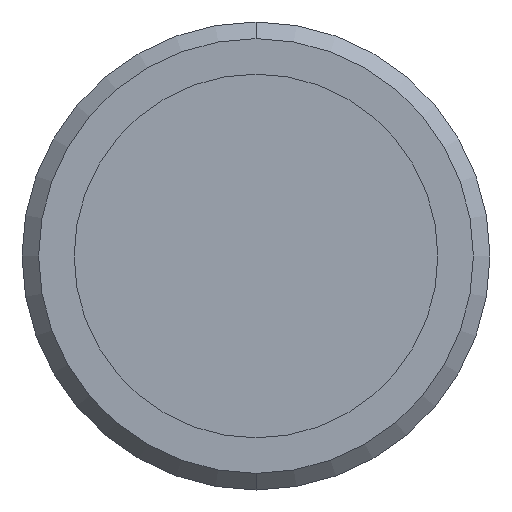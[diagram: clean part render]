
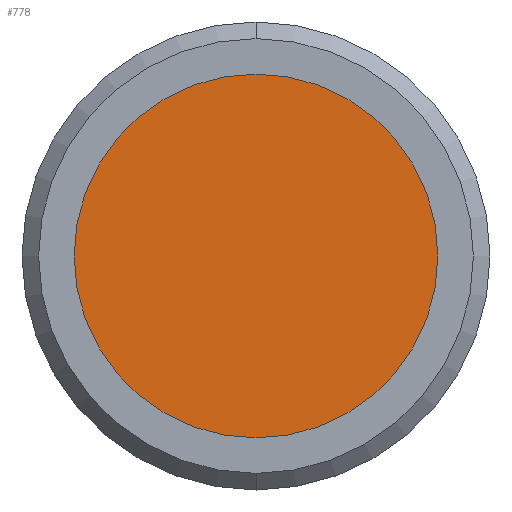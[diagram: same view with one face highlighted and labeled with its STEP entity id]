
A CAD part, front view. The second image highlights one B-rep face of the part: STEP entity #778.
In plain terms, the highlighted planar face has unit normal (0, -1, 0).
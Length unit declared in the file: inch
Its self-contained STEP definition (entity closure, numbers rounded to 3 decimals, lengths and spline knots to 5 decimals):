
#17 = PLANE ( 'NONE',  #186 ) ;
#100 = EDGE_CURVE ( 'NONE', #870, #936, #603, .T. ) ;
#117 = EDGE_CURVE ( 'NONE', #936, #870, #369, .T. ) ;
#173 = AXIS2_PLACEMENT_3D ( 'NONE', #446, #445, #444 ) ;
#179 = AXIS2_PLACEMENT_3D ( 'NONE', #969, #968, #966 ) ;
#186 = AXIS2_PLACEMENT_3D ( 'NONE', #1066, #1020, #1138 ) ;
#244 = CARTESIAN_POINT ( 'NONE',  ( -2.38628, -1.41751, -0.684 ) ) ;
#272 = CARTESIAN_POINT ( 'NONE',  ( -2.38628, -1.41751, 0.684 ) ) ;
#369 = CIRCLE ( 'NONE', #179, 0.684 ) ;
#444 = DIRECTION ( 'NONE',  ( 0., 0., -1. ) ) ;
#445 = DIRECTION ( 'NONE',  ( 0., -1., 0. ) ) ;
#446 = CARTESIAN_POINT ( 'NONE',  ( -2.38628, -1.41751, 0. ) ) ;
#472 = ORIENTED_EDGE ( 'NONE', *, *, #117, .T. ) ;
#486 = ORIENTED_EDGE ( 'NONE', *, *, #100, .T. ) ;
#603 = CIRCLE ( 'NONE', #173, 0.684 ) ;
#734 = FACE_OUTER_BOUND ( 'NONE', #825, .T. ) ;
#778 = ADVANCED_FACE ( 'NONE', ( #734 ), #17, .T. ) ;
#825 = EDGE_LOOP ( 'NONE', ( #486, #472 ) ) ;
#870 = VERTEX_POINT ( 'NONE', #244 ) ;
#936 = VERTEX_POINT ( 'NONE', #272 ) ;
#966 = DIRECTION ( 'NONE',  ( 0., 0., -1. ) ) ;
#968 = DIRECTION ( 'NONE',  ( 0., -1., 0. ) ) ;
#969 = CARTESIAN_POINT ( 'NONE',  ( -2.38628, -1.41751, 0. ) ) ;
#1020 = DIRECTION ( 'NONE',  ( 0., -1., 0. ) ) ;
#1066 = CARTESIAN_POINT ( 'NONE',  ( -2.38628, -1.41751, 0. ) ) ;
#1138 = DIRECTION ( 'NONE',  ( 0., 0., -1. ) ) ;
